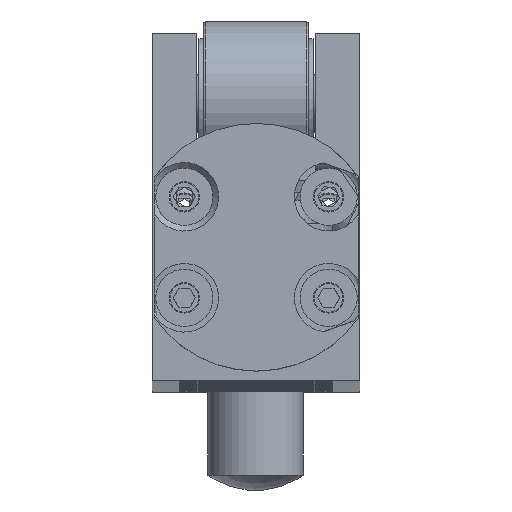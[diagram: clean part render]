
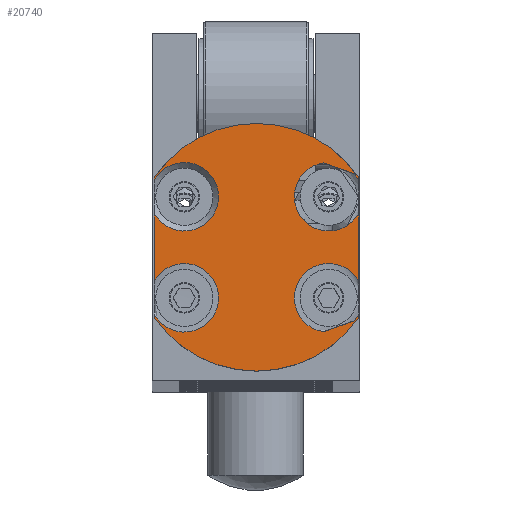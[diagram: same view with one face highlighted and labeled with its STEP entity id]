
A CAD part, top view. The second image highlights one B-rep face of the part: STEP entity #20740.
In plain terms, the highlighted planar face has unit normal (0, 0, 1).
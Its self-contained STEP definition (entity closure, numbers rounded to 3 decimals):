
#883=LINE('',#38395,#1679);
#884=LINE('',#38398,#1680);
#885=LINE('',#38402,#1681);
#886=LINE('',#38406,#1682);
#887=LINE('',#38410,#1683);
#888=LINE('',#38414,#1684);
#889=LINE('',#38418,#1685);
#890=LINE('',#38421,#1686);
#1679=VECTOR('',#28963,10.);
#1680=VECTOR('',#28966,10.);
#1681=VECTOR('',#28969,10.);
#1682=VECTOR('',#28972,10.);
#1683=VECTOR('',#28975,10.);
#1684=VECTOR('',#28978,10.);
#1685=VECTOR('',#28981,10.);
#1686=VECTOR('',#28984,10.);
#3676=FACE_OUTER_BOUND('',#4944,.T.);
#4944=EDGE_LOOP('',(#16747,#16748,#16749,#16750,#16751,#16752,#16753,#16754,
#16755,#16756,#16757,#16758,#16759,#16760,#16761,#16762));
#6735=CIRCLE('',#23231,3.6);
#6738=CIRCLE('',#23234,3.6);
#6739=CIRCLE('',#23238,3.6);
#6740=CIRCLE('',#23239,3.6);
#6741=CIRCLE('',#23240,13.);
#6742=CIRCLE('',#23241,3.6);
#6743=CIRCLE('',#23242,3.6);
#6744=CIRCLE('',#23243,13.);
#8905=VERTEX_POINT('',#38371);
#8906=VERTEX_POINT('',#38372);
#8907=VERTEX_POINT('',#38376);
#8911=VERTEX_POINT('',#38387);
#8912=VERTEX_POINT('',#38397);
#8913=VERTEX_POINT('',#38399);
#8914=VERTEX_POINT('',#38401);
#8915=VERTEX_POINT('',#38403);
#8916=VERTEX_POINT('',#38405);
#8917=VERTEX_POINT('',#38407);
#8918=VERTEX_POINT('',#38409);
#8919=VERTEX_POINT('',#38411);
#8920=VERTEX_POINT('',#38413);
#8921=VERTEX_POINT('',#38415);
#8922=VERTEX_POINT('',#38417);
#8923=VERTEX_POINT('',#38419);
#11702=EDGE_CURVE('',#8907,#8905,#6735,.T.);
#11708=EDGE_CURVE('',#8906,#8911,#6738,.T.);
#11710=EDGE_CURVE('',#8911,#8907,#883,.T.);
#11711=EDGE_CURVE('',#8905,#8912,#884,.T.);
#11712=EDGE_CURVE('',#8912,#8913,#6739,.T.);
#11713=EDGE_CURVE('',#8913,#8914,#885,.T.);
#11714=EDGE_CURVE('',#8914,#8915,#6740,.T.);
#11715=EDGE_CURVE('',#8915,#8916,#886,.T.);
#11716=EDGE_CURVE('',#8917,#8916,#6741,.T.);
#11717=EDGE_CURVE('',#8917,#8918,#887,.T.);
#11718=EDGE_CURVE('',#8918,#8919,#6742,.T.);
#11719=EDGE_CURVE('',#8919,#8920,#888,.T.);
#11720=EDGE_CURVE('',#8920,#8921,#6743,.T.);
#11721=EDGE_CURVE('',#8921,#8922,#889,.T.);
#11722=EDGE_CURVE('',#8923,#8922,#6744,.T.);
#11723=EDGE_CURVE('',#8923,#8906,#890,.T.);
#16747=ORIENTED_EDGE('',*,*,#11708,.T.);
#16748=ORIENTED_EDGE('',*,*,#11710,.T.);
#16749=ORIENTED_EDGE('',*,*,#11702,.T.);
#16750=ORIENTED_EDGE('',*,*,#11711,.T.);
#16751=ORIENTED_EDGE('',*,*,#11712,.T.);
#16752=ORIENTED_EDGE('',*,*,#11713,.T.);
#16753=ORIENTED_EDGE('',*,*,#11714,.T.);
#16754=ORIENTED_EDGE('',*,*,#11715,.T.);
#16755=ORIENTED_EDGE('',*,*,#11716,.F.);
#16756=ORIENTED_EDGE('',*,*,#11717,.T.);
#16757=ORIENTED_EDGE('',*,*,#11718,.T.);
#16758=ORIENTED_EDGE('',*,*,#11719,.T.);
#16759=ORIENTED_EDGE('',*,*,#11720,.T.);
#16760=ORIENTED_EDGE('',*,*,#11721,.T.);
#16761=ORIENTED_EDGE('',*,*,#11722,.F.);
#16762=ORIENTED_EDGE('',*,*,#11723,.T.);
#18916=PLANE('',#23237);
#20740=ADVANCED_FACE('',(#3676),#18916,.T.);
#23231=AXIS2_PLACEMENT_3D('',#38377,#28949,#28950);
#23234=AXIS2_PLACEMENT_3D('',#38391,#28956,#28957);
#23237=AXIS2_PLACEMENT_3D('',#38396,#28964,#28965);
#23238=AXIS2_PLACEMENT_3D('',#38400,#28967,#28968);
#23239=AXIS2_PLACEMENT_3D('',#38404,#28970,#28971);
#23240=AXIS2_PLACEMENT_3D('',#38408,#28973,#28974);
#23241=AXIS2_PLACEMENT_3D('',#38412,#28976,#28977);
#23242=AXIS2_PLACEMENT_3D('',#38416,#28979,#28980);
#23243=AXIS2_PLACEMENT_3D('',#38420,#28982,#28983);
#28949=DIRECTION('center_axis',(0.,0.,
-1.));
#28950=DIRECTION('ref_axis',(-0.342,0.94,0.));
#28956=DIRECTION('center_axis',(0.,0.,
-1.));
#28957=DIRECTION('ref_axis',(-0.342,0.94,0.));
#28963=DIRECTION('',(-0.94,-0.342,0.));
#28964=DIRECTION('center_axis',(0.,0.,
1.));
#28965=DIRECTION('ref_axis',(1.,0.,0.));
#28966=DIRECTION('',(0.,1.,0.));
#28967=DIRECTION('center_axis',(0.,0.,
-1.));
#28968=DIRECTION('ref_axis',(-0.342,-0.94,0.));
#28969=DIRECTION('',(0.94,-0.342,0.));
#28970=DIRECTION('center_axis',(0.,0.,
-1.));
#28971=DIRECTION('ref_axis',(-0.342,-0.94,0.));
#28972=DIRECTION('',(0.,1.,0.));
#28973=DIRECTION('center_axis',(0.,0.,
-1.));
#28974=DIRECTION('ref_axis',(0.,1.,0.));
#28975=DIRECTION('',(0.,-1.,0.));
#28976=DIRECTION('center_axis',(0.,0.,
-1.));
#28977=DIRECTION('ref_axis',(1.,0.,0.));
#28978=DIRECTION('',(0.,-1.,0.));
#28979=DIRECTION('center_axis',(0.,0.,
-1.));
#28980=DIRECTION('ref_axis',(1.,0.,0.));
#28981=DIRECTION('',(0.,-1.,0.));
#28982=DIRECTION('center_axis',(0.,0.,
-1.));
#28983=DIRECTION('ref_axis',(0.,1.,0.));
#28984=DIRECTION('',(0.,1.,0.));
#38371=CARTESIAN_POINT('',(10.8,-7.855,346.));
#38372=CARTESIAN_POINT('',(10.8,-11.256,346.));
#38376=CARTESIAN_POINT('',(7.114,-13.119,346.));
#38377=CARTESIAN_POINT('Origin',(7.627,-9.556,346.));
#38387=CARTESIAN_POINT('',(10.311,-11.955,346.));
#38391=CARTESIAN_POINT('Origin',(7.627,-9.556,346.));
#38395=CARTESIAN_POINT('',(8.206,-12.721,346.));
#38396=CARTESIAN_POINT('Origin',(0.05,2.25,346.));
#38397=CARTESIAN_POINT('',(10.8,-0.645,346.));
#38398=CARTESIAN_POINT('',(10.8,-4.655,346.));
#38399=CARTESIAN_POINT('',(7.114,4.619,346.));
#38400=CARTESIAN_POINT('Origin',(7.627,1.056,346.));
#38401=CARTESIAN_POINT('',(10.311,3.455,346.));
#38402=CARTESIAN_POINT('',(6.117,4.982,346.));
#38403=CARTESIAN_POINT('',(10.8,2.756,346.));
#38404=CARTESIAN_POINT('Origin',(7.627,1.056,346.));
#38405=CARTESIAN_POINT('',(10.8,3.06,346.));
#38406=CARTESIAN_POINT('',(10.8,-4.655,346.));
#38407=CARTESIAN_POINT('',(-10.7,3.06,346.));
#38408=CARTESIAN_POINT('Origin',(0.05,-4.25,346.));
#38409=CARTESIAN_POINT('',(-10.7,2.756,346.));
#38410=CARTESIAN_POINT('',(-10.7,2.655,346.));
#38411=CARTESIAN_POINT('',(-10.7,-0.645,346.));
#38412=CARTESIAN_POINT('Origin',(-7.527,1.056,346.));
#38413=CARTESIAN_POINT('',(-10.7,-7.855,346.));
#38414=CARTESIAN_POINT('',(-10.7,2.655,346.));
#38415=CARTESIAN_POINT('',(-10.7,-11.256,346.));
#38416=CARTESIAN_POINT('Origin',(-7.527,-9.556,346.));
#38417=CARTESIAN_POINT('',(-10.7,-11.56,346.));
#38418=CARTESIAN_POINT('',(-10.7,2.655,346.));
#38419=CARTESIAN_POINT('',(10.8,-11.56,346.));
#38420=CARTESIAN_POINT('Origin',(0.05,-4.25,346.));
#38421=CARTESIAN_POINT('',(10.8,-4.655,346.));
